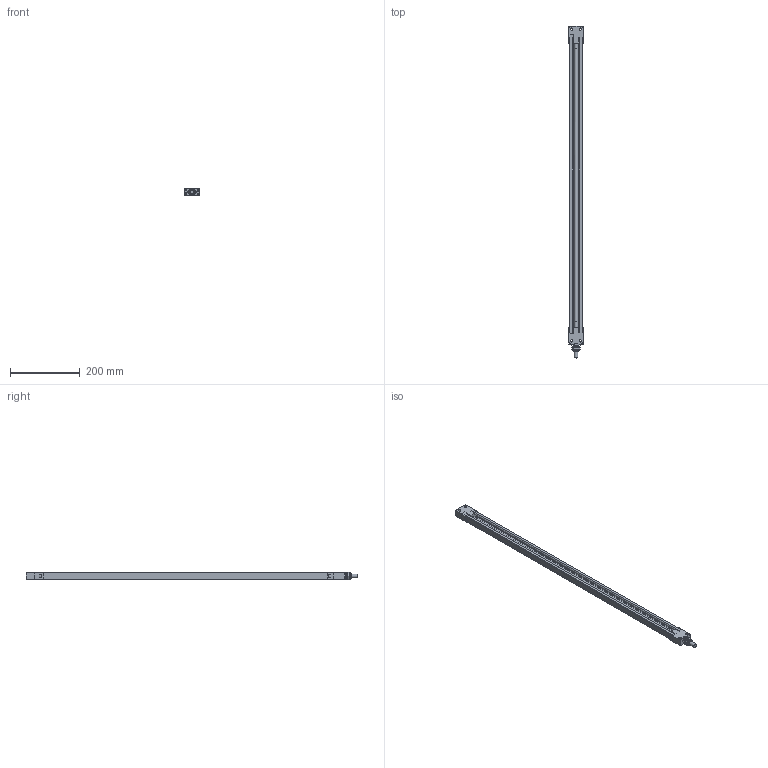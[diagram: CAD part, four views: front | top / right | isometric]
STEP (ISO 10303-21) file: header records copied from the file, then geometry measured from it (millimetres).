
FILE_DESCRIPTION(('Simco (Nederland) B.V.','HiCAD-Model','HiCAD-STEP-TRANSLATION','For information only'),'2;1');
FILE_NAME('SIMCO.STP','2012-01-01T00:00:00',('AB'),('www.simco-ion.nl'),' HiCAD 2011, Step 1600.0 ','HiCAD 2011','CONFIDENTIAL');
FILE_SCHEMA(('AUTOMOTIVE_DESIGN { 1 2 10303 214 0 1 1 1 }'));
Length unit declared in the file: millimetre
Products named in the file (3): SIMCO_EP_SH_N; EP_SH_N; CABLE
Assembly tree (2 placements, depth 2):
  SIMCO_EP_SH_N
    EP_SH_N
    CABLE
Bounding box: 42.65 x 955.09 x 20.54 mm (x, y, z)
Volume: 302508 mm3; surface area: 200827.7 mm2
Topology: 3 solids, 7 shells, 239 faces, 641 edges, 431 vertices
Faces by surface type: plane 121, cylinder 92, cone 21, sphere 4, torus 1
Full cylindrical faces by diameter (mm): 1.45 x2, 2.3 x4, 3 x4, 3.5 x8, 6.5 x4, 7 x4, 7.6 x1, 10.6 x1, 11 x3, 11.25 x1, 14.344 x2, 15.24 x2, 15.412 x1, 16 x1, 16.312 x1, 18 x2, 19.969 x2
Entity records: 12159 total; most frequent: CARTESIAN_POINT 3878, DIRECTION 1202, ORIENTED_EDGE 1052, EDGE_CURVE 526, COLOUR_RGB 517, PRESENTATION_STYLE_ASSIGNMENT 517, OVER_RIDING_STYLED_ITEM 515, CURVE_STYLE 514
